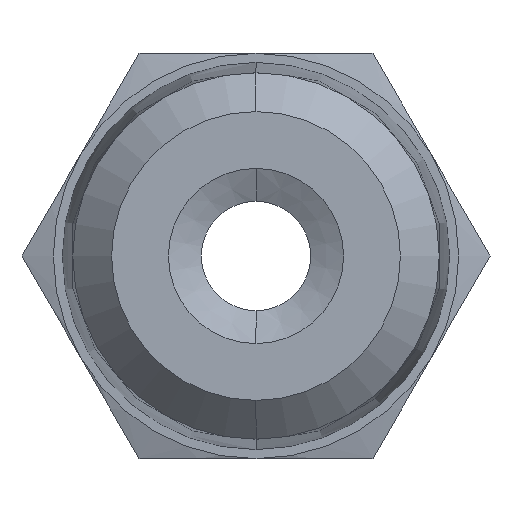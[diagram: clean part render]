
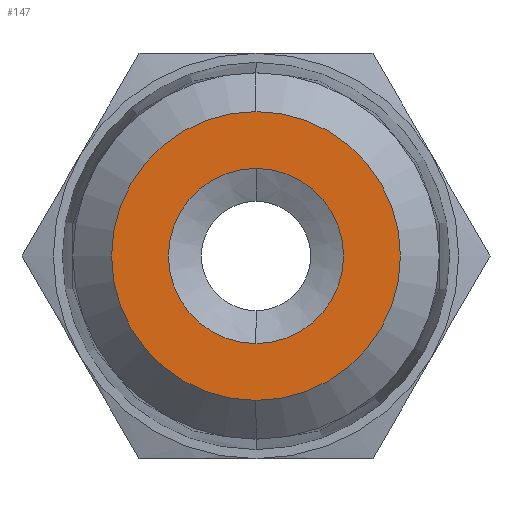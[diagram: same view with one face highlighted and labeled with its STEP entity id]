
A CAD part, left-side view. The second image highlights one B-rep face of the part: STEP entity #147.
In plain terms, the highlighted planar face has unit normal (-1, 0, 0).
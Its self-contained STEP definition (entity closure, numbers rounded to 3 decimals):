
#59 = VERTEX_POINT ( 'NONE', #582 ) ;
#87 = EDGE_CURVE ( 'NONE', #88, #89, #616, .T. ) ;
#88 = VERTEX_POINT ( 'NONE', #606 ) ;
#89 = VERTEX_POINT ( 'NONE', #605 ) ;
#147 = ADVANCED_FACE ( 'NONE', ( #694, #693 ), #692, .T. ) ;
#148 = EDGE_LOOP ( 'NONE', ( #149, #151 ) ) ;
#149 = ORIENTED_EDGE ( 'NONE', *, *, #150, .T. ) ;
#150 = EDGE_CURVE ( 'NONE', #89, #88, #690, .T. ) ;
#151 = ORIENTED_EDGE ( 'NONE', *, *, #87, .T. ) ;
#152 = EDGE_LOOP ( 'NONE', ( #153, #155 ) ) ;
#153 = ORIENTED_EDGE ( 'NONE', *, *, #154, .F. ) ;
#154 = EDGE_CURVE ( 'NONE', #383, #59, #835, .T. ) ;
#155 = ORIENTED_EDGE ( 'NONE', *, *, #382, .F. ) ;
#382 = EDGE_CURVE ( 'NONE', #59, #383, #1284, .T. ) ;
#383 = VERTEX_POINT ( 'NONE', #1274 ) ;
#582 = CARTESIAN_POINT ( 'NONE',  ( -10., 0., -2.4 ) ) ;
#605 = CARTESIAN_POINT ( 'NONE',  ( -10., 0., -3.959 ) ) ;
#606 = CARTESIAN_POINT ( 'NONE',  ( -10., 0., 3.959 ) ) ;
#607 = DIRECTION ( 'NONE',  ( 0., 0., 1. ) ) ;
#608 = DIRECTION ( 'NONE',  ( -1., 0., 0. ) ) ;
#609 = CARTESIAN_POINT ( 'NONE',  ( -10., 0., 0. ) ) ;
#610 = AXIS2_PLACEMENT_3D ( 'NONE', #609, #608, #607 ) ;
#616 = CIRCLE ( 'NONE', #610, 3.959 ) ;
#684 = DIRECTION ( 'NONE',  ( -1., 0., 0. ) ) ;
#685 = CARTESIAN_POINT ( 'NONE',  ( -10., 0., 0. ) ) ;
#686 = AXIS2_PLACEMENT_3D ( 'NONE', #685, #684, #836 ) ;
#687 = DIRECTION ( 'NONE',  ( 0., 0., 1. ) ) ;
#688 = DIRECTION ( 'NONE',  ( -1., 0., 0. ) ) ;
#689 = AXIS2_PLACEMENT_3D ( 'NONE', #691, #688, #687 ) ;
#690 = CIRCLE ( 'NONE', #686, 3.959 ) ;
#691 = CARTESIAN_POINT ( 'NONE',  ( -10., 0., 0. ) ) ;
#692 = PLANE ( 'NONE',  #689 ) ;
#693 = FACE_BOUND ( 'NONE', #152, .T. ) ;
#694 = FACE_OUTER_BOUND ( 'NONE', #148, .T. ) ;
#831 = DIRECTION ( 'NONE',  ( 0., 0., 1. ) ) ;
#832 = DIRECTION ( 'NONE',  ( -1., 0., 0. ) ) ;
#833 = CARTESIAN_POINT ( 'NONE',  ( -10., 0., 0. ) ) ;
#834 = AXIS2_PLACEMENT_3D ( 'NONE', #833, #832, #831 ) ;
#835 = CIRCLE ( 'NONE', #834, 2.4 ) ;
#836 = DIRECTION ( 'NONE',  ( 0., 0., 1. ) ) ;
#1274 = CARTESIAN_POINT ( 'NONE',  ( -10., 0., 2.4 ) ) ;
#1275 = DIRECTION ( 'NONE',  ( 0., 0., 1. ) ) ;
#1276 = DIRECTION ( 'NONE',  ( -1., 0., 0. ) ) ;
#1277 = CARTESIAN_POINT ( 'NONE',  ( -10., 0., 0. ) ) ;
#1278 = AXIS2_PLACEMENT_3D ( 'NONE', #1277, #1276, #1275 ) ;
#1284 = CIRCLE ( 'NONE', #1278, 2.4 ) ;
